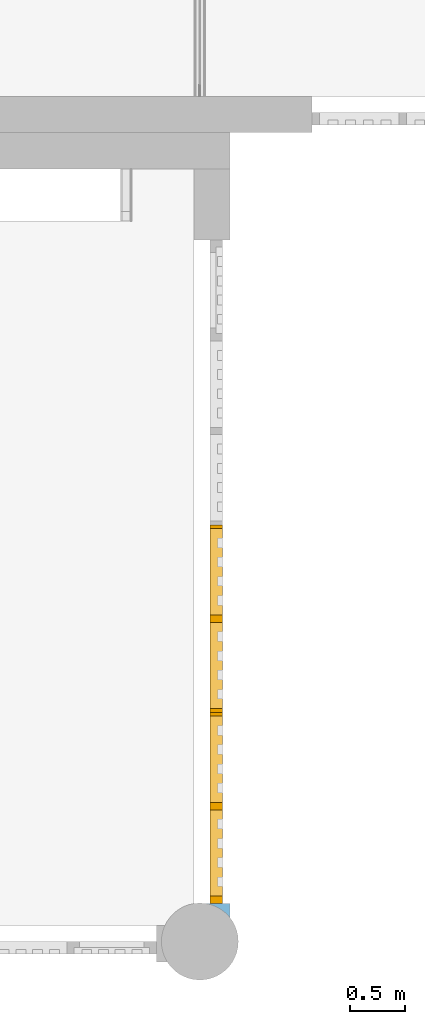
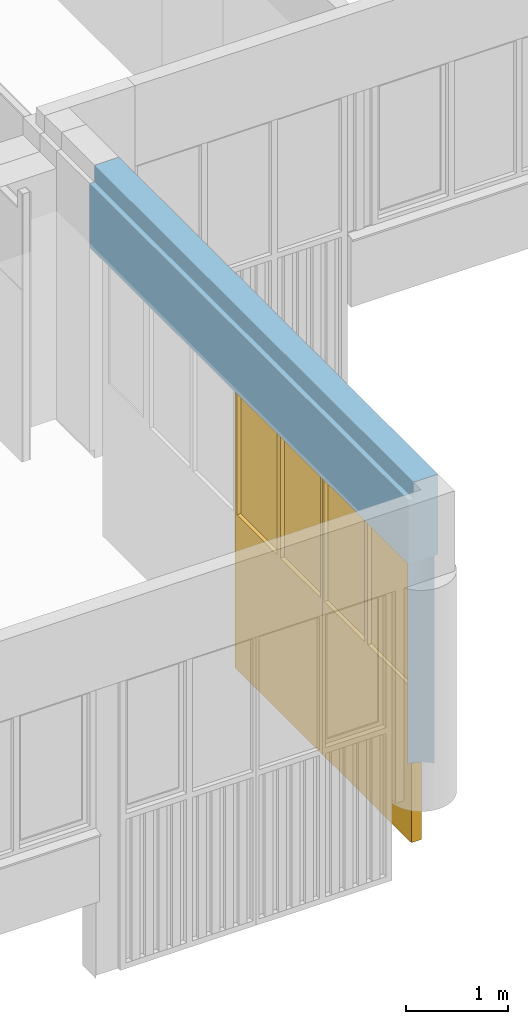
# One storey, part 44 of 99: 2 windows, 3 openings, plus 1 element that does not belong to this part.
"""IFC2X3 building model written with IfcOpenShell, lengths in millimetres."""

from ifc_helpers import new_model, entity, si_unit, converted_unit, derived_unit, money_unit, direction, frame, origin_with_axes, place, context, subcontext, project, spatial, open_shell, faceted_brep, surface_model, material, type_object, element, fill, save


model = new_model("IFC2X3")

# Units and contexts
model_context = context("Model", 3, precision=0.01, world=origin_with_axes(), true_north=direction((0.0, 1.0)))
body_context = subcontext(model_context, "Body", "Model", "MODEL_VIEW")
ifc_project = project(units=[si_unit("LENGTHUNIT", "METRE", prefix="MILLI"), si_unit("AREAUNIT", "SQUARE_METRE"), si_unit("VOLUMEUNIT", "CUBIC_METRE"), converted_unit("PLANEANGLEUNIT", "DEGREE", entity("IfcPlaneAngleMeasure", 0.0174532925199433), si_unit("PLANEANGLEUNIT", "RADIAN"), dimensions=[0, 0, 0, 0, 0, 0, 0]), money_unit("EUR"), converted_unit("TIMEUNIT", "Year", entity("IfcTimeMeasure", 31557600.0), si_unit("TIMEUNIT", "SECOND"), dimensions=[0, 0, 1, 0, 0, 0, 0]), si_unit("MASSUNIT", "GRAM", prefix="KILO"), si_unit("THERMODYNAMICTEMPERATUREUNIT", "DEGREE_CELSIUS"), si_unit("LUMINOUSINTENSITYUNIT", "LUMEN"), si_unit("ENERGYUNIT", "JOULE", prefix="MEGA"), derived_unit("THERMALCONDUCTANCEUNIT", [(si_unit("POWERUNIT", "WATT"), 1), (si_unit("LENGTHUNIT", "METRE"), -1), (si_unit("THERMODYNAMICTEMPERATUREUNIT", "KELVIN"), -1)]), derived_unit("SPECIFICHEATCAPACITYUNIT", [(si_unit("ENERGYUNIT", "JOULE"), 1), (si_unit("MASSUNIT", "GRAM", prefix="KILO"), -1), (si_unit("THERMODYNAMICTEMPERATUREUNIT", "KELVIN"), -1)]), derived_unit("MASSDENSITYUNIT", [(si_unit("MASSUNIT", "GRAM", prefix="KILO"), 1), (si_unit("VOLUMEUNIT", "CUBIC_METRE"), -1)])], contexts=[model_context])

# Site, building, storey
site_placement = place(None, origin_with_axes())
site = spatial("IfcSite", under=ifc_project, at=site_placement, Name="Site", CompositionType="ELEMENT")
building_placement = place(site_placement, origin_with_axes())
building = spatial("IfcBuilding", under=site, at=building_placement, Name="Naam gebouw", CompositionType="ELEMENT")
storey_placement = place(building_placement, frame((0.0, 0.0, 7650.0), z_axis=(0.0, 0.0, 1.0), x_axis=(1.0, 0.0, 0.0)))
storey = spatial("IfcBuildingStorey", under=building, at=storey_placement, Name="2e verdieping N", CompositionType="ELEMENT", Elevation=7650.0)

# Wall, openings, windows
ifc_material = material(Name="ALG - CONSTRUCTIEF")
wall_type = type_object("IfcWallType", Name="ALG - CONSTRUCTIEF 330", PredefinedType="NOTDEFINED")
wall_placement = place(storey_placement, frame((32345.47026007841, 9685.94968985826, -99.99999999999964), z_axis=(0.0, 0.0, 1.0), x_axis=(0.0, -1.0, 0.0)))
wall = element("IfcWall", 1, at=wall_placement, inside=storey, type_object=wall_type, material=ifc_material, Name="_Wand-x", context=body_context, shape_type="Brep", body=[
    faceted_brep([(6039.999999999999, 107.6103989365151, 2540.000000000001), (6039.28855375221, 104.3399333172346, 2540.000000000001), (6035.726058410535, 54.52973992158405, 2540.000000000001), (6039.28855375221, 4.719546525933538, 2540.000000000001), (6039.999999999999, 1.449080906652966, 2540.000000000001), (6039.999999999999, 0.0, 2540.000000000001), (4299.928571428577, 0.0, 2540.000000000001), (-5.482205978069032e-05, 0.0, 2540.000000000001), (-5.482205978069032e-05, 329.9999999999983, 2540.000000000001), (6039.999999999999, 329.9999999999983, 2540.000000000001), (6049.903517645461, 153.1361348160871, 2540.000000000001), (6067.354860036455, 199.9249944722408, 2540.000000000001), (6091.287321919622, 243.7540260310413, 2540.000000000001), (6121.213707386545, 283.7309968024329, 2540.000000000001), (6156.524801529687, 319.0420909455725, 2540.000000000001), (6171.162854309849, 329.9999999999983, 2540.000000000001), (6240.280982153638, 329.9999999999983, 2540.000000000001), (6240.283294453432, 0.0, 2540.000000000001), (6040.314734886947, 0.002267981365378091, 2540.000000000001), (6039.999999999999, 1.446407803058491, 820.0000000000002), (6039.999999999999, 0.002267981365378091, 820.0000000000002), (6040.000582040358, 0.002267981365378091, 99.99999999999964), (6040.314735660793, 0.00226442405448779, 99.99999999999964), (6240.280982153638, 0.0, 3299.999999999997), (0.0, 0.0, 3299.999999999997), (-5.482206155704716e-05, 54.52973992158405, 3299.999999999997), (0.0, 54.52973992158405, 3500.0), (0.0, 329.9999999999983, 3500.0), (6171.16285430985, 329.9999999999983, 0.0), (6039.999999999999, 329.9999999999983, 0.0), (6240.280982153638, 329.9999999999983, 3500.0), (6039.999999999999, 259.999999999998, 0.0), (6039.999999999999, 146.002267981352, 0.0), (6039.999999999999, 146.002267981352, 820.0000000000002), (6039.999999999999, 107.6128887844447, 820.0000000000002), (6040.000541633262, 107.6128887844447, 0.0), (6049.903517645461, 153.1361348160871, 0.0), (6067.354860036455, 199.9249944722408, 0.0), (6091.287321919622, 243.7540260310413, 0.0), (6121.213707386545, 283.7309968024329, 0.0), (6156.524801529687, 319.0420909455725, 0.0), (6240.280982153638, 54.52973992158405, 3500.0), (6240.280982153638, 54.52973992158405, 3299.999999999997), (6040.000581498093, 1.446407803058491, 99.99999999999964)], [[[0, 1, 2, 3, 4, 5, 6, 7, 8, 9]], [[1, 0, 10, 11, 12, 13, 14, 15, 16, 17, 18, 4, 3, 2]], [[4, 19, 20, 5]], [[5, 20, 21, 22, 18, 17, 23, 24, 7, 6]], [[7, 24, 25, 26, 27, 8]], [[16, 15, 28, 29, 9, 8, 27, 30]], [[31, 32, 33, 34, 0, 9, 29]], [[0, 34, 35, 36, 10]], [[37, 11, 10, 36]], [[38, 12, 11, 37]], [[39, 13, 12, 38]], [[40, 14, 13, 39]], [[15, 14, 40, 28]], [[23, 17, 16, 30, 41, 42]], [[19, 4, 18, 22, 43]], [[20, 19, 43, 21]], [[21, 43, 22]], [[25, 24, 23, 42]], [[41, 26, 25, 42]], [[26, 41, 30, 27]], [[32, 31, 29, 28, 40, 39, 38, 37, 36, 35]], [[33, 32, 35, 34]]]),
])
opening_1_placement = place(wall_placement, frame((1296.678544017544, 0.0, -959.9999999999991), z_axis=(0.0, 0.0, 1.0), x_axis=(1.0, 0.0, 0.0)))
element("IfcOpeningElement", 2, at=opening_1_placement, cuts=wall, Name="_Merk-056", context=body_context, shape_type="Brep", body=[
    faceted_brep([(-1296.678598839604, 259.999999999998, -1060.0), (-1296.678598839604, 259.999999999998, 3500.0), (-1296.678598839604, 330.999999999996, 3500.0), (-1296.678598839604, 330.999999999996, -1060.0), (-1296.678598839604, -0.9999999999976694, -1060.0), (-1296.678598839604, -0.9999999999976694, 3500.0), (1296.678598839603, 259.999999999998, 3500.0), (1296.678598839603, 330.999999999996, 3500.0), (1296.678598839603, -0.9999999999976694, 3500.0), (1296.678598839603, 330.999999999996, -1060.0), (1296.678598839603, 259.999999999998, -1060.0), (1296.678598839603, -0.9999999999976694, -1060.0)], [[[0, 1, 2, 3]], [[1, 0, 4, 5]], [[6, 7, 2, 1, 5, 8]], [[7, 9, 3, 2]], [[0, 3, 9, 10, 11, 4]], [[5, 4, 11, 8]], [[6, 10, 9, 7]], [[10, 6, 8, 11]]]),
])
opening_2_placement = place(wall_placement, frame((3446.642857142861, 0.0, -959.9999999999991), z_axis=(0.0, 0.0, 1.0), x_axis=(1.0, 0.0, 0.0)))
opening_2 = element("IfcOpeningElement", 3, at=opening_2_placement, cuts=wall, Name="_Merk-057", context=body_context, shape_type="Brep", body=[
    faceted_brep([(-853.2857142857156, 259.999999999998, -1060.0), (-853.2857142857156, 259.999999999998, 3500.0), (-853.2857142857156, 330.999999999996, 3500.0), (-853.2857142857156, 330.999999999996, -1060.0), (-853.2857142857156, -0.9999999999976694, -1060.0), (-853.2857142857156, -0.9999999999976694, 3500.0), (853.2857142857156, 259.999999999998, 3500.0), (853.2857142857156, 330.999999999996, 3500.0), (853.2857142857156, -0.9999999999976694, 3500.0), (853.2857142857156, 330.999999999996, -1060.0), (853.2857142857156, 259.999999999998, -1060.0), (853.2857142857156, -0.9999999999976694, -1060.0)], [[[0, 1, 2, 3]], [[1, 0, 4, 5]], [[6, 7, 2, 1, 5, 8]], [[7, 9, 3, 2]], [[0, 3, 9, 10, 11, 4]], [[5, 4, 11, 8]], [[6, 10, 9, 7]], [[10, 6, 8, 11]]]),
])
opening_3_placement = place(wall_placement, frame((5169.964285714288, 0.0, -959.9999999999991), z_axis=(0.0, 0.0, 1.0), x_axis=(1.0, 0.0, 0.0)))
opening_3 = element("IfcOpeningElement", 4, at=opening_3_placement, cuts=wall, Name="_Merk-057", context=body_context, shape_type="Brep", body=[
    faceted_brep([(-870.0357142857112, 259.999999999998, -1060.0), (-870.0357142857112, 259.999999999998, 3500.0), (-870.0357142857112, 330.999999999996, 3500.0), (-870.0357142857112, 330.999999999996, -1060.0), (-870.0357142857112, -0.9999999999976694, -1060.0), (-870.0357142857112, -0.9999999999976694, 3500.0), (870.0357142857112, 259.999999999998, 3500.0), (870.0357142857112, 330.999999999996, 3500.0), (870.0357142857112, -0.9999999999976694, 3500.0), (870.0357142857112, 330.999999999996, -1060.0), (870.0357142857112, 259.999999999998, -1060.0), (870.0357142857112, -0.9999999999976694, -1060.0)], [[[0, 1, 2, 3]], [[1, 0, 4, 5]], [[6, 7, 2, 1, 5, 8]], [[7, 9, 3, 2]], [[0, 3, 9, 10, 11, 4]], [[5, 4, 11, 8]], [[6, 10, 9, 7]], [[10, 6, 8, 11]]]),
])
window_style = type_object("IfcWindowStyle", Name="R2 bl ol 26", ConstructionType="NOTDEFINED", OperationType="USERDEFINED", ParameterTakesPrecedence=False, Sizeable=False)
window_1_placement = place(opening_2_placement, frame((853.2857142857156, 0.0, 0.0), z_axis=(0.0, 0.0, 1.0), x_axis=(-1.0, 0.0, 0.0)))
window_1 = element("IfcWindow", 5, at=window_1_placement, inside=storey, type_object=window_style, Name="_Merk-057", ObjectType="WINDOW", OverallHeight=3500.0, OverallWidth=1706.57, context=body_context, shape_type="SurfaceModel", body=[
    faceted_brep([(1673.071428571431, -259.999999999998, 1780.000000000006), (1673.071428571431, -259.999999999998, 1847.000000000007), (1673.071428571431, -146.0000000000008, 1847.000000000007), (1673.071428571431, -146.0000000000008, 1780.000000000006), (1673.071428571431, -259.999999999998, 67.00000000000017), (1706.571428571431, -259.999999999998, 67.00000000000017), (1706.571428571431, -260.0000000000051, 3433.0), (1673.071428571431, -260.0000000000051, 3433.0), (1673.071428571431, -146.0000000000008, 3433.0), (1706.571428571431, -146.0000000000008, 3433.0), (1706.571428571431, -146.0000000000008, 67.00000000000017), (1673.071428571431, -146.0000000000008, 67.00000000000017)], [[[0, 1, 2, 3]], [[0, 4, 5, 6, 7, 1]], [[1, 7, 8, 2]], [[3, 2, 8, 9, 10, 11]], [[4, 0, 3, 11]], [[5, 4, 11, 10]], [[6, 5, 10, 9]], [[7, 6, 9, 8]]]),
    faceted_brep([(33.50000000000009, -259.999999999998, 67.00000000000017), (0.0, -259.999999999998, 67.00000000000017), (0.0, -146.0000000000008, 67.00000000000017), (33.50000000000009, -146.0000000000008, 67.00000000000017), (33.50000000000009, -259.999999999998, 1780.000000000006), (33.50000000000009, -259.999999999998, 1847.000000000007), (33.50000000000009, -259.999999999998, 3433.0), (0.0, -259.999999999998, 3433.0), (0.0, -146.0000000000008, 3433.0), (33.50000000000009, -146.0000000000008, 3433.0), (33.50000000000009, -146.0000000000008, 1847.000000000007), (33.50000000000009, -146.0000000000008, 1780.000000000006)], [[[0, 1, 2, 3]], [[0, 4, 5, 6, 7, 1]], [[1, 7, 8, 2]], [[3, 2, 8, 9, 10, 11]], [[4, 0, 3, 11]], [[5, 4, 11, 10]], [[6, 5, 10, 9]], [[7, 6, 9, 8]]]),
    faceted_brep([(886.7857142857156, -259.999999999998, 1847.000000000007), (886.7857142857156, -259.999999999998, 1780.000000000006), (886.7857142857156, -146.0000000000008, 1780.000000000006), (886.7857142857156, -146.0000000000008, 1847.000000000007), (886.7857142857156, -259.999999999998, 3433.0), (819.7857142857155, -259.999999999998, 3433.0), (819.7857142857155, -259.999999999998, 1847.000000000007), (819.7857142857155, -259.999999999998, 1780.000000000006), (819.7857142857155, -259.999999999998, 67.00000000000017), (886.7857142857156, -259.999999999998, 67.00000000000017), (886.7857142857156, -146.0000000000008, 67.00000000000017), (819.7857142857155, -146.0000000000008, 67.00000000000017), (819.7857142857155, -146.0000000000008, 1780.000000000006), (819.7857142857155, -146.0000000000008, 1847.000000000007), (819.7857142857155, -146.0000000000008, 3433.0), (886.7857142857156, -146.0000000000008, 3433.0)], [[[0, 1, 2, 3]], [[0, 4, 5, 6, 7, 8, 9, 1]], [[1, 9, 10, 2]], [[3, 2, 10, 11, 12, 13, 14, 15]], [[4, 0, 3, 15]], [[5, 4, 15, 14]], [[6, 5, 14, 13]], [[7, 6, 13, 12]], [[8, 7, 12, 11]], [[9, 8, 11, 10]]]),
    faceted_brep([(819.7857142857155, -259.999999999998, 1847.000000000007), (819.7857142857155, -259.999999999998, 1780.000000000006), (819.7857142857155, -146.0000000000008, 1780.000000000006), (819.7857142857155, -146.0000000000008, 1847.000000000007), (33.50000000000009, -259.999999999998, 1847.000000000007), (33.50000000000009, -259.999999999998, 1780.000000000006), (33.50000000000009, -146.0000000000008, 1780.000000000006), (33.50000000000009, -146.0000000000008, 1847.000000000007)], [[[0, 1, 2, 3]], [[0, 4, 5, 1]], [[1, 5, 6, 2]], [[3, 2, 6, 7]], [[4, 0, 3, 7]], [[5, 4, 7, 6]]]),
    faceted_brep([(886.7857142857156, -259.999999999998, 1780.000000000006), (886.7857142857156, -259.999999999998, 1847.000000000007), (886.7857142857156, -146.0000000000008, 1847.000000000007), (886.7857142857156, -146.0000000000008, 1780.000000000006), (1673.071428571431, -259.999999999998, 1780.000000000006), (1673.071428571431, -259.999999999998, 1847.000000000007), (1673.071428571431, -146.0000000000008, 1847.000000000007), (1673.071428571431, -146.0000000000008, 1780.000000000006)], [[[0, 1, 2, 3]], [[0, 4, 5, 1]], [[1, 5, 6, 2]], [[3, 2, 6, 7]], [[4, 0, 3, 7]], [[5, 4, 7, 6]]]),
    faceted_brep([(1673.071428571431, -259.999999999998, 67.00000000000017), (1706.571428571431, -259.999999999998, 67.00000000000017), (1706.571428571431, -146.0000000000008, 67.00000000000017), (1673.071428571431, -146.0000000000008, 67.00000000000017), (886.7857142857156, -259.999999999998, 67.00000000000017), (819.7857142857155, -259.999999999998, 67.00000000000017), (33.50000000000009, -259.999999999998, 67.00000000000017), (0.0, -259.999999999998, 67.00000000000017), (0.0, -259.999999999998, 0.0), (1706.571428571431, -259.999999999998, 0.0), (1706.571428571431, -146.0000000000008, 0.0), (0.0, -146.0000000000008, 0.0), (0.0, -146.0000000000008, 67.00000000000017), (33.50000000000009, -146.0000000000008, 67.00000000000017), (819.7857142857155, -146.0000000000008, 67.00000000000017), (886.7857142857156, -146.0000000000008, 67.00000000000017)], [[[0, 1, 2, 3]], [[0, 4, 5, 6, 7, 8, 9, 1]], [[1, 9, 10, 2]], [[3, 2, 10, 11, 12, 13, 14, 15]], [[4, 0, 3, 15]], [[5, 4, 15, 14]], [[6, 5, 14, 13]], [[7, 6, 13, 12]], [[8, 7, 12, 11]], [[9, 8, 11, 10]]]),
    faceted_brep([(886.7857142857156, -259.999999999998, 3433.0), (819.7857142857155, -259.999999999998, 3433.0), (819.7857142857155, -146.0000000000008, 3433.0), (886.7857142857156, -146.0000000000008, 3433.0), (1673.071428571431, -260.0000000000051, 3433.0), (1706.571428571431, -260.0000000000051, 3433.0), (1706.571428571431, -260.0000000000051, 3500.0), (0.0, -259.999999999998, 3500.0), (0.0, -259.999999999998, 3433.0), (33.50000000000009, -259.999999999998, 3433.0), (33.50000000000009, -146.0000000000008, 3433.0), (0.0, -146.0000000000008, 3433.0), (0.0, -146.0000000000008, 3500.0), (1706.571428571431, -146.0000000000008, 3500.0), (1706.571428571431, -146.0000000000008, 3433.0), (1673.071428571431, -146.0000000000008, 3433.0)], [[[0, 1, 2, 3]], [[0, 4, 5, 6, 7, 8, 9, 1]], [[1, 9, 10, 2]], [[3, 2, 10, 11, 12, 13, 14, 15]], [[4, 0, 3, 15]], [[5, 4, 15, 14]], [[6, 5, 14, 13]], [[7, 6, 13, 12]], [[8, 7, 12, 11]], [[9, 8, 11, 10]]]),
    surface_model("IfcShellBasedSurfaceModel", [(1673.071428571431, -210.0000000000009, 1847.000000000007), (1673.071428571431, -210.0000000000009, 3433.0), (886.7857142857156, -210.0000000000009, 3433.0), (886.7857142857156, -210.0000000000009, 1847.000000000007)], [open_shell([[[0, 1, 2, 3]]])]),
    surface_model("IfcShellBasedSurfaceModel", [(1673.071428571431, -190.0000000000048, 1847.000000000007), (886.7857142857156, -189.9999999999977, 1847.000000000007), (886.7857142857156, -190.0000000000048, 3433.0), (1673.071428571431, -190.0000000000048, 3433.0)], [open_shell([[[0, 1, 2, 3]]])]),
    surface_model("IfcShellBasedSurfaceModel", [(819.7857142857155, -210.0000000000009, 1847.000000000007), (819.7857142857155, -210.0000000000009, 3433.0), (33.50000000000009, -210.0000000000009, 3433.0), (33.50000000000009, -210.0000000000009, 1847.000000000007)], [open_shell([[[0, 1, 2, 3]]])]),
    surface_model("IfcShellBasedSurfaceModel", [(819.7857142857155, -189.9999999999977, 1847.000000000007), (33.50000000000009, -189.9999999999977, 1847.000000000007), (33.50000000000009, -189.9999999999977, 3433.0), (819.7857142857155, -190.0000000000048, 3433.0)], [open_shell([[[0, 1, 2, 3]]])]),
    faceted_brep([(1673.071428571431, -200.0000000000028, 67.00000000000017), (886.7857142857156, -200.0000000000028, 67.00000000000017), (886.7857142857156, -146.0000000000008, 67.00000000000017), (1673.071428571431, -146.0000000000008, 67.00000000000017), (1673.071428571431, -200.0000000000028, 1780.000000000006), (886.7857142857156, -200.0000000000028, 1780.000000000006), (886.7857142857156, -146.0000000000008, 1780.000000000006), (1673.071428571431, -146.0000000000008, 1780.000000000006)], [[[0, 1, 2, 3]], [[0, 4, 5, 1]], [[1, 5, 6, 2]], [[3, 2, 6, 7]], [[4, 0, 3, 7]], [[5, 4, 7, 6]]]),
    faceted_brep([(819.7857142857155, -200.0000000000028, 67.00000000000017), (33.50000000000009, -200.0000000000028, 67.00000000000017), (33.50000000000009, -146.0000000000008, 67.00000000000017), (819.7857142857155, -146.0000000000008, 67.00000000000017), (819.7857142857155, -200.0000000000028, 1780.000000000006), (33.50000000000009, -200.0000000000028, 1780.000000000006), (33.50000000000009, -146.0000000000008, 1780.000000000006), (819.7857142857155, -146.0000000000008, 1780.000000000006)], [[[0, 1, 2, 3]], [[0, 4, 5, 1]], [[1, 5, 6, 2]], [[3, 2, 6, 7]], [[4, 0, 3, 7]], [[5, 4, 7, 6]]]),
])
fill(opening_2, window_1)
window_2_placement = place(opening_3_placement, frame((870.0357142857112, 0.0, 0.0), z_axis=(0.0, 0.0, 1.0), x_axis=(-1.0, 0.0, 0.0)))
window_2 = element("IfcWindow", 6, at=window_2_placement, inside=storey, type_object=window_style, Name="_Merk-057", ObjectType="WINDOW", OverallHeight=3500.0, OverallWidth=1740.07, context=body_context, shape_type="SurfaceModel", body=[
    faceted_brep([(1706.571428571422, -259.999999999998, 1780.000000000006), (1706.571428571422, -259.999999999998, 1847.000000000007), (1706.571428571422, -146.0000000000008, 1847.000000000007), (1706.571428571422, -146.0000000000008, 1780.000000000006), (1706.571428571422, -259.999999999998, 67.00000000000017), (1740.071428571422, -259.999999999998, 67.00000000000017), (1740.071428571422, -260.0000000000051, 3433.0), (1706.571428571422, -260.0000000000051, 3433.0), (1706.571428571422, -146.0000000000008, 3433.0), (1740.071428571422, -146.0000000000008, 3433.0), (1740.071428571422, -146.0000000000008, 67.00000000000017), (1706.571428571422, -146.0000000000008, 67.00000000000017)], [[[0, 1, 2, 3]], [[0, 4, 5, 6, 7, 1]], [[1, 7, 8, 2]], [[3, 2, 8, 9, 10, 11]], [[4, 0, 3, 11]], [[5, 4, 11, 10]], [[6, 5, 10, 9]], [[7, 6, 9, 8]]]),
    faceted_brep([(67.00000000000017, -259.999999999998, 67.00000000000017), (0.0, -259.999999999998, 67.00000000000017), (0.0, -146.0000000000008, 67.00000000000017), (67.00000000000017, -146.0000000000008, 67.00000000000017), (67.00000000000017, -259.999999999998, 1780.000000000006), (67.00000000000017, -259.999999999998, 1847.000000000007), (67.00000000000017, -259.999999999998, 3433.0), (0.0, -259.999999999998, 3433.0), (0.0, -146.0000000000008, 3433.0), (67.00000000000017, -146.0000000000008, 3433.0), (67.00000000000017, -146.0000000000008, 1847.000000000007), (67.00000000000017, -146.0000000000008, 1780.000000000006)], [[[0, 1, 2, 3]], [[0, 4, 5, 6, 7, 1]], [[1, 7, 8, 2]], [[3, 2, 8, 9, 10, 11]], [[4, 0, 3, 11]], [[5, 4, 11, 10]], [[6, 5, 10, 9]], [[7, 6, 9, 8]]]),
    faceted_brep([(920.2857142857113, -259.999999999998, 1847.000000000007), (920.2857142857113, -259.999999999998, 1780.000000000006), (920.2857142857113, -146.0000000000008, 1780.000000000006), (920.2857142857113, -146.0000000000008, 1847.000000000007), (920.2857142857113, -259.999999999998, 3433.0), (853.285714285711, -259.999999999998, 3433.0), (853.285714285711, -259.999999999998, 1847.000000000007), (853.285714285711, -259.999999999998, 1780.000000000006), (853.285714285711, -259.999999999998, 67.00000000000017), (920.2857142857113, -259.999999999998, 67.00000000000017), (920.2857142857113, -146.0000000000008, 67.00000000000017), (853.285714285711, -146.0000000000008, 67.00000000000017), (853.285714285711, -146.0000000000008, 1780.000000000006), (853.285714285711, -146.0000000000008, 1847.000000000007), (853.285714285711, -146.0000000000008, 3433.0), (920.2857142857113, -146.0000000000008, 3433.0)], [[[0, 1, 2, 3]], [[0, 4, 5, 6, 7, 8, 9, 1]], [[1, 9, 10, 2]], [[3, 2, 10, 11, 12, 13, 14, 15]], [[4, 0, 3, 15]], [[5, 4, 15, 14]], [[6, 5, 14, 13]], [[7, 6, 13, 12]], [[8, 7, 12, 11]], [[9, 8, 11, 10]]]),
    faceted_brep([(853.285714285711, -259.999999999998, 1847.000000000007), (853.285714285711, -259.999999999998, 1780.000000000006), (853.285714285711, -146.0000000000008, 1780.000000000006), (853.285714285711, -146.0000000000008, 1847.000000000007), (67.00000000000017, -259.999999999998, 1847.000000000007), (67.00000000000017, -259.999999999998, 1780.000000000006), (67.00000000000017, -146.0000000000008, 1780.000000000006), (67.00000000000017, -146.0000000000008, 1847.000000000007)], [[[0, 1, 2, 3]], [[0, 4, 5, 1]], [[1, 5, 6, 2]], [[3, 2, 6, 7]], [[4, 0, 3, 7]], [[5, 4, 7, 6]]]),
    faceted_brep([(920.2857142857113, -259.999999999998, 1780.000000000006), (920.2857142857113, -259.999999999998, 1847.000000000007), (920.2857142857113, -146.0000000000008, 1847.000000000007), (920.2857142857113, -146.0000000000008, 1780.000000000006), (1706.571428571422, -259.999999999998, 1780.000000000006), (1706.571428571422, -259.999999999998, 1847.000000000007), (1706.571428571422, -146.0000000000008, 1847.000000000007), (1706.571428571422, -146.0000000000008, 1780.000000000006)], [[[0, 1, 2, 3]], [[0, 4, 5, 1]], [[1, 5, 6, 2]], [[3, 2, 6, 7]], [[4, 0, 3, 7]], [[5, 4, 7, 6]]]),
    faceted_brep([(1706.571428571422, -259.999999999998, 67.00000000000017), (1740.071428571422, -259.999999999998, 67.00000000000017), (1740.071428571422, -146.0000000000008, 67.00000000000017), (1706.571428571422, -146.0000000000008, 67.00000000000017), (920.2857142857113, -259.999999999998, 67.00000000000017), (853.285714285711, -259.999999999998, 67.00000000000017), (67.00000000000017, -259.999999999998, 67.00000000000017), (0.0, -259.999999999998, 67.00000000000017), (0.0, -259.999999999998, 0.0), (1740.071428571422, -259.999999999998, 0.0), (1740.071428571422, -146.0000000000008, 0.0), (0.0, -146.0000000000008, 0.0), (0.0, -146.0000000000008, 67.00000000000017), (67.00000000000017, -146.0000000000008, 67.00000000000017), (853.285714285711, -146.0000000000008, 67.00000000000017), (920.2857142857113, -146.0000000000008, 67.00000000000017)], [[[0, 1, 2, 3]], [[0, 4, 5, 6, 7, 8, 9, 1]], [[1, 9, 10, 2]], [[3, 2, 10, 11, 12, 13, 14, 15]], [[4, 0, 3, 15]], [[5, 4, 15, 14]], [[6, 5, 14, 13]], [[7, 6, 13, 12]], [[8, 7, 12, 11]], [[9, 8, 11, 10]]]),
    faceted_brep([(920.2857142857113, -259.999999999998, 3433.0), (853.285714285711, -259.999999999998, 3433.0), (853.285714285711, -146.0000000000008, 3433.0), (920.2857142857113, -146.0000000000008, 3433.0), (1706.571428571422, -260.0000000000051, 3433.0), (1740.071428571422, -260.0000000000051, 3433.0), (1740.071428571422, -260.0000000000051, 3500.0), (0.0, -259.999999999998, 3500.0), (0.0, -259.999999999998, 3433.0), (67.00000000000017, -259.999999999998, 3433.0), (67.00000000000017, -146.0000000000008, 3433.0), (0.0, -146.0000000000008, 3433.0), (0.0, -146.0000000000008, 3500.0), (1740.071428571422, -146.0000000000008, 3500.0), (1740.071428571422, -146.0000000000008, 3433.0), (1706.571428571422, -146.0000000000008, 3433.0)], [[[0, 1, 2, 3]], [[0, 4, 5, 6, 7, 8, 9, 1]], [[1, 9, 10, 2]], [[3, 2, 10, 11, 12, 13, 14, 15]], [[4, 0, 3, 15]], [[5, 4, 15, 14]], [[6, 5, 14, 13]], [[7, 6, 13, 12]], [[8, 7, 12, 11]], [[9, 8, 11, 10]]]),
    surface_model("IfcShellBasedSurfaceModel", [(1706.571428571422, -210.0000000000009, 1847.000000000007), (1706.571428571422, -210.0000000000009, 3433.0), (920.2857142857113, -210.0000000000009, 3433.0), (920.2857142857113, -210.0000000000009, 1847.000000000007)], [open_shell([[[0, 1, 2, 3]]])]),
    surface_model("IfcShellBasedSurfaceModel", [(1706.571428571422, -190.0000000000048, 1847.000000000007), (920.2857142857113, -189.9999999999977, 1847.000000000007), (920.2857142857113, -190.0000000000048, 3433.0), (1706.571428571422, -190.0000000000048, 3433.0)], [open_shell([[[0, 1, 2, 3]]])]),
    surface_model("IfcShellBasedSurfaceModel", [(853.285714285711, -210.0000000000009, 1847.000000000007), (853.285714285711, -210.0000000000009, 3433.0), (67.00000000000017, -210.0000000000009, 3433.0), (67.00000000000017, -210.0000000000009, 1847.000000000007)], [open_shell([[[0, 1, 2, 3]]])]),
    surface_model("IfcShellBasedSurfaceModel", [(853.285714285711, -189.9999999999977, 1847.000000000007), (67.00000000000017, -189.9999999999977, 1847.000000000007), (67.00000000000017, -189.9999999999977, 3433.0), (853.285714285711, -190.0000000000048, 3433.0)], [open_shell([[[0, 1, 2, 3]]])]),
    faceted_brep([(1706.571428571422, -200.0000000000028, 67.00000000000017), (920.2857142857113, -200.0000000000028, 67.00000000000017), (920.2857142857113, -146.0000000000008, 67.00000000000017), (1706.571428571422, -146.0000000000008, 67.00000000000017), (1706.571428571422, -200.0000000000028, 1780.000000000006), (920.2857142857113, -200.0000000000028, 1780.000000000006), (920.2857142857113, -146.0000000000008, 1780.000000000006), (1706.571428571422, -146.0000000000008, 1780.000000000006)], [[[0, 1, 2, 3]], [[0, 4, 5, 1]], [[1, 5, 6, 2]], [[3, 2, 6, 7]], [[4, 0, 3, 7]], [[5, 4, 7, 6]]]),
    faceted_brep([(853.285714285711, -200.0000000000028, 67.00000000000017), (67.00000000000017, -200.0000000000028, 67.00000000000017), (67.00000000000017, -146.0000000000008, 67.00000000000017), (853.285714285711, -146.0000000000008, 67.00000000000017), (853.285714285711, -200.0000000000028, 1780.000000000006), (67.00000000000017, -200.0000000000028, 1780.000000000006), (67.00000000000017, -146.0000000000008, 1780.000000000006), (853.285714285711, -146.0000000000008, 1780.000000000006)], [[[0, 1, 2, 3]], [[0, 4, 5, 1]], [[1, 5, 6, 2]], [[3, 2, 6, 7]], [[4, 0, 3, 7]], [[5, 4, 7, 6]]]),
])
fill(opening_3, window_2)

save(model, "model.ifc")
